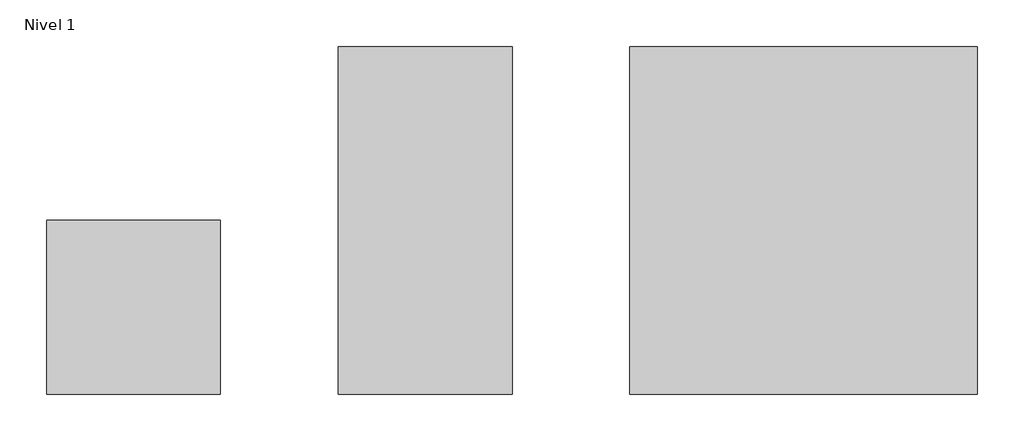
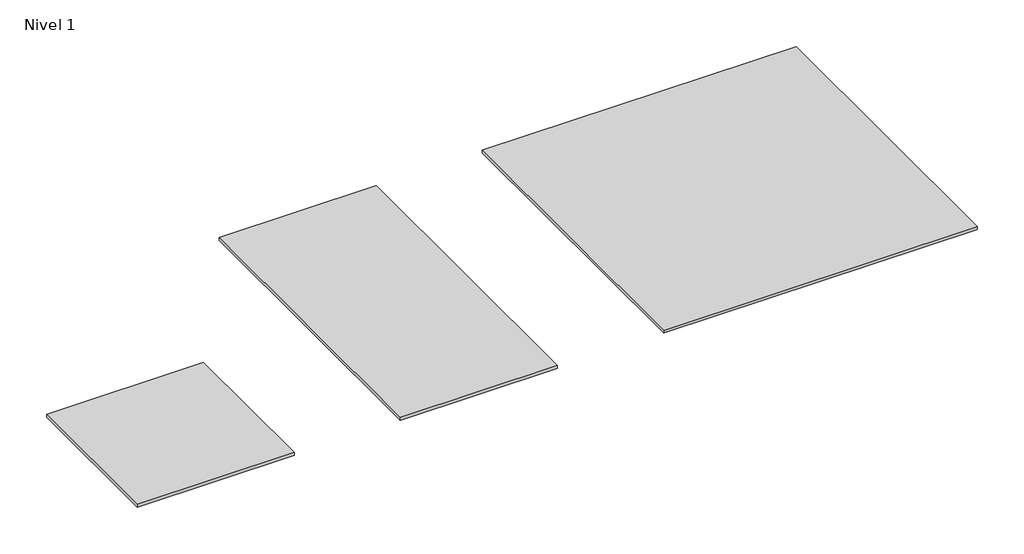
# One storey: 3 proxies.
"""IFC4 building model written with IfcOpenShell, lengths in millimetres."""

from ifc_helpers import new_model, si_unit, origin, place, context, project, spatial, transform, mapped, element, save
from components import generic_models_257b50fe, generic_models_4f1b10d2, generic_models_2d690f92

model = new_model("IFC4")

# Units and contexts
model_context = context("Model", 3, world=origin())
ifc_project = project(units=[si_unit("LENGTHUNIT", "METRE", prefix="MILLI")], contexts=[model_context])

# Site, building, storey
site = spatial("IfcSite", under=ifc_project)
building = spatial("IfcBuilding", under=site)
storey = spatial("IfcBuildingStorey", under=building, Name="Nivel 1", Elevation=0.0)

# Proxies
placement = place(None, origin())
generic_models_shape = generic_models_257b50fe(model_context)
element("IfcBuildingElementProxy", 1, Name="MODELO3D_PLAFON_HYDRA 1.3dm", ObjectType="MODELO3D_PLAFON_HYDRA 1.3dm", at=placement, inside=storey, context=model_context, shape_type="MappedRepresentation", body=[
    mapped(generic_models_shape, transform((0.0, 0.0, 0.0), x_axis=(1.0, 0.0, 0.0), y_axis=(0.0, 1.0, 0.0), z_axis=(0.0, 0.0, 1.0))),
])
generic_models_2_shape = generic_models_4f1b10d2(model_context)
element("IfcBuildingElementProxy", 2, Name="MODELO3D_PLAFON_HYDRA 2.3dm", ObjectType="MODELO3D_PLAFON_HYDRA 2.3dm", at=placement, inside=storey, context=model_context, shape_type="MappedRepresentation", body=[
    mapped(generic_models_2_shape, transform((0.0, 0.0, 0.0), x_axis=(1.0, 0.0, 0.0), y_axis=(0.0, 1.0, 0.0), z_axis=(0.0, 0.0, 1.0))),
])
generic_models_3_shape = generic_models_2d690f92(model_context)
element("IfcBuildingElementProxy", 3, Name="MODELO3D_PLAFON_HYDRA 3.3dm", ObjectType="MODELO3D_PLAFON_HYDRA 3.3dm", at=placement, inside=storey, context=model_context, shape_type="MappedRepresentation", body=[
    mapped(generic_models_3_shape, transform((0.0, 0.0, 0.0), x_axis=(1.0, 0.0, 0.0), y_axis=(0.0, 1.0, 0.0), z_axis=(0.0, 0.0, 1.0))),
])

save(model, "model.ifc")
